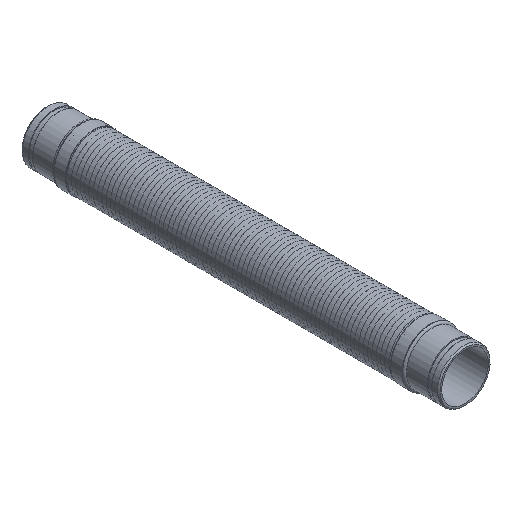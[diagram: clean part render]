
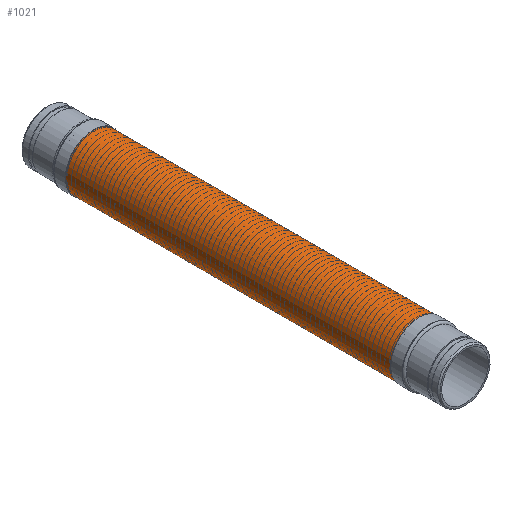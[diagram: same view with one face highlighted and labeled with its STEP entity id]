
A CAD part, isometric view. The second image highlights one B-rep face of the part: STEP entity #1021.
In plain terms, the highlighted cylindrical face has radius 60.35 mm (diameter 120.701 mm), a full revolution.
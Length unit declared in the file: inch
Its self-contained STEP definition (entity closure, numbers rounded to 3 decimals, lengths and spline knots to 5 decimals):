
#987=CARTESIAN_POINT('',(-2.376,-15.,0.));
#988=VERTEX_POINT('',#987);
#989=CARTESIAN_POINT('',(0.0,-15.,0.0));
#990=DIRECTION('',(0.0,1.0,0.0));
#991=DIRECTION('',(1.0,0.0,0.0));
#992=AXIS2_PLACEMENT_3D('',#989,#990,#991);
#993=CIRCLE('',#992,2.376);
#994=EDGE_CURVE('',#988,#988,#993,.T.);
#1002=CARTESIAN_POINT('',(0.0,0.0,0.0));
#1003=DIRECTION('',(0.0,1.0,0.0));
#1004=DIRECTION('',(1.0,0.0,0.0));
#1005=AXIS2_PLACEMENT_3D('',#1002,#1003,#1004);
#1006=CYLINDRICAL_SURFACE('',#1005,2.376);
#1007=ORIENTED_EDGE('',*,*,#994,.T.);
#1008=EDGE_LOOP('',(#1007));
#1009=FACE_OUTER_BOUND('',#1008,.T.);
#1010=CARTESIAN_POINT('',(-2.376,15.,0.));
#1011=VERTEX_POINT('',#1010);
#1012=CARTESIAN_POINT('',(0.0,15.,0.0));
#1013=DIRECTION('',(0.0,-1.0,0.0));
#1014=DIRECTION('',(1.0,0.0,0.0));
#1015=AXIS2_PLACEMENT_3D('',#1012,#1013,#1014);
#1016=CIRCLE('',#1015,2.376);
#1017=EDGE_CURVE('',#1011,#1011,#1016,.T.);
#1018=ORIENTED_EDGE('',*,*,#1017,.T.);
#1019=EDGE_LOOP('',(#1018));
#1020=FACE_BOUND('',#1019,.T.);
#1021=ADVANCED_FACE('',(#1009,#1020),#1006,.T.);
